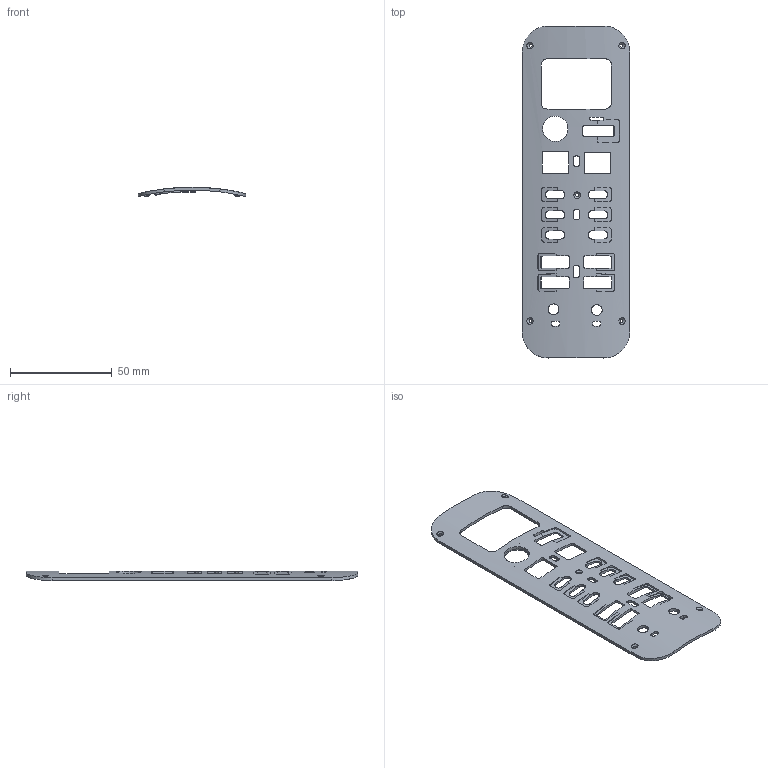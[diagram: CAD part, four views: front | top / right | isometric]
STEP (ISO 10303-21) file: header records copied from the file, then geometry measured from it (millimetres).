
FILE_DESCRIPTION(('Open CASCADE Model'),'2;1');
FILE_NAME('Open CASCADE Shape Model','2026-10-04T15:56:54',('Author'),( 'Open CASCADE'),'Open CASCADE STEP processor 7.9','Open CASCADE 7.9' ,'Unknown');
FILE_SCHEMA(('AUTOMOTIVE_DESIGN { 1 0 10303 214 1 1 1 1 }'));
Length unit declared in the file: millimetre
Products named in the file (1): Open CASCADE STEP translator 7.9 1
Bounding box: 52.7 x 163.1 x 4.7 mm (x, y, z)
Volume: 8990.7 mm3; surface area: 14860.4 mm2
Topology: 1 solids, 1 shells, 297 faces, 853 edges, 566 vertices
Faces by surface type: plane 145, cylinder 138, cone 14
Full cylindrical faces by diameter (mm): 1.1 x2, 1.8 x5, 2.6 x1, 2.8 x4, 5.3 x2, 12.4 x2
Entity records: 34411 total; most frequent: CARTESIAN_POINT 19052, DIRECTION 2328, ORIENTED_EDGE 1706, PCURVE 1706, DEFINITIONAL_REPRESENTATION 1706, LINE 1234, VECTOR 1234, B_SPLINE_CURVE_WITH_KNOTS 947
